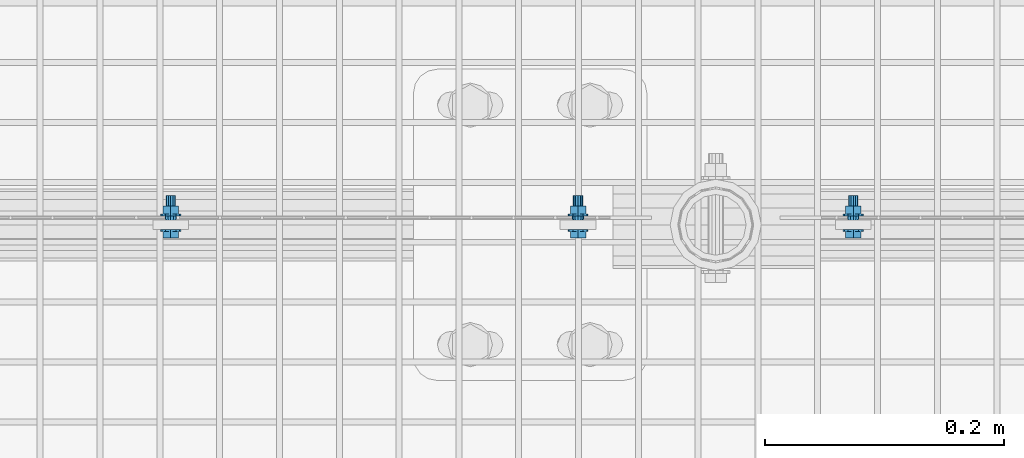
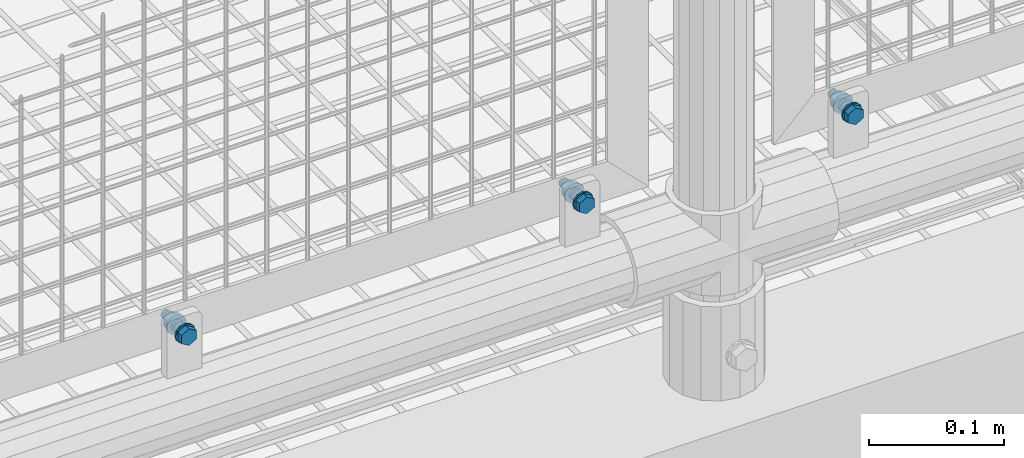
# One storey, part 95 of 1530: 3 mechanical fasteners.
"""IFC2X3 building model written with IfcOpenShell, lengths in millimetres."""

from ifc_helpers import new_model, si_unit, frame, origin_with_axes, place, context, subcontext, project, spatial, faceted_brep, source, transform, mapped, material, type_object, element, save


model = new_model("IFC2X3")

# Units and contexts
model_context = context("Model", 3, precision=1e-05, world=origin_with_axes())
body_context = subcontext(model_context, "Body", "Model", "MODEL_VIEW")
ifc_project = project(units=[si_unit("LENGTHUNIT", "METRE", prefix="MILLI"), si_unit("AREAUNIT", "SQUARE_METRE"), si_unit("VOLUMEUNIT", "CUBIC_METRE"), si_unit("MASSUNIT", "GRAM", prefix="KILO"), si_unit("TIMEUNIT", "SECOND"), si_unit("PLANEANGLEUNIT", "RADIAN"), si_unit("SOLIDANGLEUNIT", "STERADIAN"), si_unit("THERMODYNAMICTEMPERATUREUNIT", "DEGREE_CELSIUS"), si_unit("LUMINOUSINTENSITYUNIT", "LUMEN")], contexts=[model_context])

# Site, building, storey
site_placement = place(None, origin_with_axes())
site = spatial("IfcSite", under=ifc_project, at=site_placement, Name="Brattvåg", CompositionType="ELEMENT")
building_placement = place(site_placement, origin_with_axes())
building = spatial("IfcBuilding", under=site, at=building_placement, Name="Undefined", CompositionType="ELEMENT")
storey_placement = place(building_placement, origin_with_axes())
storey = spatial("IfcBuildingStorey", under=building, at=storey_placement, Name="Undefined", CompositionType="ELEMENT", Elevation=0.0)

# Mechanical fasteners
ifc_material = material(Name="8")
mechanical_fastener_type = type_object("IfcMechanicalFastenerType", Name="Bolt assembly")
shared_shape_1 = source(origin_with_axes(), body_context, "Body", "Brep", [
    faceted_brep([(7.50555349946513, -6.899000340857, 0.0), (3.75277674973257, -6.899000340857, 6.5), (-3.75277674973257, -6.899000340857, 6.5), (-7.50555349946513, -6.899000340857, 9.19165206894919e-16), (-3.75277674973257, -6.899000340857, -6.5), (3.75277674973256, -6.899000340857, -6.5), (3.75277674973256, -1.59900015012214, -6.5), (-3.75277674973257, -1.59900015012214, -6.5), (-7.50555349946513, -1.59900015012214, 9.19165206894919e-16), (-3.75277674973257, -1.59900015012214, 6.5), (3.75277674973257, -1.59900015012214, 6.5), (7.50555349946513, -1.59900015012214, 0.0), (4.0, -1.59900015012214, 0.0), (3.46410161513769, -1.59900015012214, 2.00000000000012), (1.99999999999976, -1.59900015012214, 3.46410161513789), (-4.14534392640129e-13, -1.59900015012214, 4.0), (-2.00000000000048, -1.59900015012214, 3.46410161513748), (-3.4641016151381, -1.59900015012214, 1.9999999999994), (-4.0, -1.59900015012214, -8.29068785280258e-13), (-3.46410161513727, -1.59900015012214, -2.00000000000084), (-1.99999999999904, -1.59900015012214, -3.46410161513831), (1.23916228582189e-12, -1.59900015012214, -4.0), (2.00000000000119, -1.59900015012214, -3.46410161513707), (3.46410161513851, -1.59900015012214, -1.99999999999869), (3.46410161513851, 28.4009998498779, -1.99999999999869), (2.00000000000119, 28.4009998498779, -3.46410161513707), (1.23916228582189e-12, 28.4009998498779, -4.0), (-1.99999999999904, 28.4009998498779, -3.46410161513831), (-3.46410161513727, 28.4009998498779, -2.00000000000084), (-4.0, 28.4009998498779, -8.29068785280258e-13), (-3.4641016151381, 28.4009998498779, 1.9999999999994), (-2.00000000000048, 28.4009998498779, 3.46410161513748), (-4.14534392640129e-13, 28.4009998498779, 4.0), (1.99999999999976, 28.4009998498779, 3.46410161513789), (3.46410161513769, 28.4009998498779, 2.00000000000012), (4.0, 28.4009998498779, 0.0), (8.5, -1.59900015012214, 0.0), (7.36121593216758, -1.59900015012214, 4.25000000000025), (4.24999999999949, -1.59900015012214, 7.36121593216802), (-8.80885584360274e-13, -1.59900015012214, 8.5), (-4.25000000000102, -1.59900015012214, 7.36121593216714), (-7.36121593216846, -1.59900015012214, 4.24999999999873), (-8.5, -1.59900015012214, -1.76177116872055e-12), (-7.3612159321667, -1.59900015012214, -4.25000000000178), (-4.24999999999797, -1.59900015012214, -7.3612159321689), (2.63321985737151e-12, -1.59900015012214, -8.5), (4.25000000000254, -1.59900015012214, -7.36121593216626), (7.36121593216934, -1.59900015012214, -4.24999999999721), (7.36121593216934, 0.000999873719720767, -4.24999999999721), (4.25000000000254, 0.000999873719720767, -7.36121593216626), (2.63321985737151e-12, 0.000999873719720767, -8.5), (-4.24999999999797, 0.000999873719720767, -7.3612159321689), (-7.3612159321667, 0.000999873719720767, -4.25000000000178), (-8.5, 0.000999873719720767, -1.76177116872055e-12), (-7.36121593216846, 0.000999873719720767, 4.24999999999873), (-4.25000000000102, 0.000999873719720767, 7.36121593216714), (-8.80885584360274e-13, 0.000999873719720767, 8.5), (4.24999999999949, 0.000999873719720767, 7.36121593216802), (7.36121593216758, 0.000999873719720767, 4.25000000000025), (8.5, 0.000999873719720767, 0.0), (8.5, 11.5044159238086, 0.0), (7.36121593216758, 11.5044159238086, 4.25000000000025), (4.24999999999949, 11.5044159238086, 7.36121593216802), (-8.80885584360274e-13, 11.5044159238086, 8.5), (-4.25000000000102, 11.5044159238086, 7.36121593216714), (-7.36121593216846, 11.5044159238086, 4.24999999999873), (-8.5, 11.5044159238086, -1.76177116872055e-12), (-7.3612159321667, 11.5044159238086, -4.25000000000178), (-4.24999999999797, 11.5044159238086, -7.3612159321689), (2.63321985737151e-12, 11.5044159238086, -8.5), (4.25000000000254, 11.5044159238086, -7.36121593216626), (7.36121593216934, 11.5044159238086, -4.24999999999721), (7.36121593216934, 13.1044159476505, -4.24999999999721), (4.25000000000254, 13.1044159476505, -7.36121593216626), (2.63321985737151e-12, 13.1044159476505, -8.5), (-4.24999999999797, 13.1044159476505, -7.3612159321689), (-7.3612159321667, 13.1044159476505, -4.25000000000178), (-8.5, 13.1044159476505, -1.76177116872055e-12), (-7.36121593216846, 13.1044159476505, 4.24999999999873), (-4.25000000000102, 13.1044159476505, 7.36121593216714), (-8.80885584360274e-13, 13.1044159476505, 8.5), (4.24999999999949, 13.1044159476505, 7.36121593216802), (7.36121593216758, 13.1044159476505, 4.25000000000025), (8.5, 13.1044159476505, 0.0), (7.50555349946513, 13.1044159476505, 0.0), (3.75277674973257, 13.1044159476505, 6.5), (-3.75277674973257, 13.1044159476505, 6.5), (-7.50555349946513, 13.1044159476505, 9.19165206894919e-16), (-3.75277674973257, 13.1044159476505, -6.5), (3.75277674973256, 13.1044159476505, -6.5), (3.75277674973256, 19.9044161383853, -6.5), (-3.75277674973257, 19.9044161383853, -6.5), (-7.50555349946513, 19.9044161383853, 9.19165206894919e-16), (-3.75277674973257, 19.9044161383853, 6.5), (3.75277674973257, 19.9044161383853, 6.5), (7.50555349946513, 19.9044161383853, 0.0)], [[[0, 1, 2, 3, 4, 5]], [[6, 7, 8, 9, 10, 11]], [[0, 11, 10, 1]], [[1, 10, 9, 2]], [[2, 9, 8, 3]], [[3, 8, 7, 4]], [[4, 7, 6, 5]], [[5, 6, 11, 0]], [[12, 13, 14, 15, 16, 17, 18, 19, 20, 21, 22, 23]], [[24, 25, 26, 27, 28, 29, 30, 31, 32, 33, 34, 35]], [[12, 35, 34, 13]], [[13, 34, 33, 14]], [[14, 33, 32, 15]], [[15, 32, 31, 16]], [[16, 31, 30, 17]], [[17, 30, 29, 18]], [[18, 29, 28, 19]], [[19, 28, 27, 20]], [[20, 27, 26, 21]], [[21, 26, 25, 22]], [[22, 25, 24, 23]], [[23, 24, 35, 12]], [[36, 37, 38, 39, 40, 41, 42, 43, 44, 45, 46, 47]], [[48, 49, 50, 51, 52, 53, 54, 55, 56, 57, 58, 59]], [[36, 59, 58, 37]], [[37, 58, 57, 38]], [[38, 57, 56, 39]], [[39, 56, 55, 40]], [[40, 55, 54, 41]], [[41, 54, 53, 42]], [[42, 53, 52, 43]], [[43, 52, 51, 44]], [[44, 51, 50, 45]], [[45, 50, 49, 46]], [[46, 49, 48, 47]], [[47, 48, 59, 36]], [[60, 61, 62, 63, 64, 65, 66, 67, 68, 69, 70, 71]], [[72, 73, 74, 75, 76, 77, 78, 79, 80, 81, 82, 83]], [[60, 83, 82, 61]], [[61, 82, 81, 62]], [[62, 81, 80, 63]], [[63, 80, 79, 64]], [[64, 79, 78, 65]], [[65, 78, 77, 66]], [[66, 77, 76, 67]], [[67, 76, 75, 68]], [[68, 75, 74, 69]], [[69, 74, 73, 70]], [[70, 73, 72, 71]], [[71, 72, 83, 60]], [[84, 85, 86, 87, 88, 89]], [[90, 91, 92, 93, 94, 95]], [[84, 95, 94, 85]], [[85, 94, 93, 86]], [[86, 93, 92, 87]], [[87, 92, 91, 88]], [[88, 91, 90, 89]], [[89, 90, 95, 84]]]),
    faceted_brep([(5.0, 0.100999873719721, 0.0), (4.33012701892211, 0.100999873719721, 2.50000000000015), (2.4999999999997, 0.100999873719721, 4.33012701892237), (-5.18167990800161e-13, 0.100999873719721, 5.0), (-2.5000000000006, 0.100999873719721, 4.33012701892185), (-4.33012701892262, 0.100999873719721, 2.49999999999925), (-5.0, 0.100999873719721, -1.03633598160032e-12), (-4.33012701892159, 0.100999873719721, -2.50000000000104), (-2.49999999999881, 0.100999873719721, -4.33012701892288), (1.54895285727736e-12, 0.100999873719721, -5.0), (2.50000000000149, 0.100999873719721, -4.33012701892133), (4.33012701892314, 0.100999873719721, -2.49999999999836), (4.33012701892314, 8.10099988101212, -2.49999999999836), (2.50000000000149, 8.10099988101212, -4.33012701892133), (1.54895285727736e-12, 8.10099988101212, -5.0), (-2.49999999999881, 8.10099988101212, -4.33012701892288), (-4.33012701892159, 8.10099988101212, -2.50000000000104), (-5.0, 8.10099988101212, -1.03633598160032e-12), (-4.33012701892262, 8.10099988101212, 2.49999999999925), (-2.5000000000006, 8.10099988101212, 4.33012701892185), (-5.18167990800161e-13, 8.10099988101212, 5.0), (2.4999999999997, 8.10099988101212, 4.33012701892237), (4.33012701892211, 8.10099988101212, 2.50000000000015), (5.0, 8.10099988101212, 0.0), (5.0, 8.40441592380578, 0.0), (4.33012701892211, 8.40441592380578, 2.50000000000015), (2.4999999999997, 8.40441592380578, 4.33012701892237), (-5.18167990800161e-13, 8.40441592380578, 5.0), (-2.5000000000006, 8.40441592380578, 4.33012701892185), (-4.33012701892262, 8.40441592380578, 2.49999999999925), (-5.0, 8.40441592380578, -1.03633598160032e-12), (-4.33012701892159, 8.40441592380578, -2.50000000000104), (-2.49999999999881, 8.40441592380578, -4.33012701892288), (1.54895285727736e-12, 8.40441592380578, -5.0), (2.50000000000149, 8.40441592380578, -4.33012701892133), (4.33012701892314, 8.40441592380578, -2.49999999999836), (4.33012701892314, 11.5044159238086, -2.49999999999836), (2.50000000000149, 11.5044159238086, -4.33012701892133), (1.54895285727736e-12, 11.5044159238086, -5.0), (-2.49999999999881, 11.5044159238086, -4.33012701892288), (-4.33012701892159, 11.5044159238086, -2.50000000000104), (-5.0, 11.5044159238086, -1.03633598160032e-12), (-4.33012701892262, 11.5044159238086, 2.49999999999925), (-2.5000000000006, 11.5044159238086, 4.33012701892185), (-5.18167990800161e-13, 11.5044159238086, 5.0), (2.4999999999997, 11.5044159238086, 4.33012701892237), (4.33012701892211, 11.5044159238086, 2.50000000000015), (5.0, 11.5044159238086, 0.0)], [[[0, 1, 2, 3, 4, 5, 6, 7, 8, 9, 10, 11]], [[12, 13, 14, 15, 16, 17, 18, 19, 20, 21, 22, 23]], [[0, 23, 22, 1]], [[1, 22, 21, 2]], [[2, 21, 20, 3]], [[3, 20, 19, 4]], [[4, 19, 18, 5]], [[5, 18, 17, 6]], [[6, 17, 16, 7]], [[7, 16, 15, 8]], [[8, 15, 14, 9]], [[9, 14, 13, 10]], [[10, 13, 12, 11]], [[11, 12, 23, 0]], [[24, 25, 26, 27, 28, 29, 30, 31, 32, 33, 34, 35]], [[36, 37, 38, 39, 40, 41, 42, 43, 44, 45, 46, 47]], [[24, 47, 46, 25]], [[25, 46, 45, 26]], [[26, 45, 44, 27]], [[27, 44, 43, 28]], [[28, 43, 42, 29]], [[29, 42, 41, 30]], [[30, 41, 40, 31]], [[31, 40, 39, 32]], [[32, 39, 38, 33]], [[33, 38, 37, 34]], [[34, 37, 36, 35]], [[35, 36, 47, 24]]]),
])
mechanical_fastener_1_placement = place(storey_placement, frame((11935.8506088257, 7660.49843978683, 352.299672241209), z_axis=(-1.0, 1.99999855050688e-09, 0.0), x_axis=(0.0, 0.0, 1.0)))
element("IfcMechanicalFastener", 1, at=mechanical_fastener_1_placement, inside=storey, type_object=mechanical_fastener_type, material=ifc_material, Name="Bolt assembly", NominalDiameter=8.0, NominalLength=30.0, context=body_context, shape_type="MappedRepresentation", body=[
    mapped(shared_shape_1, transform((0.0, 0.0, 0.0))),
])
shared_shape_2 = source(origin_with_axes(), body_context, "Body", "Brep", [
    faceted_brep([(7.50555349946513, -6.899000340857, 0.0), (3.75277674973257, -6.899000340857, 6.5), (-3.75277674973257, -6.899000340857, 6.5), (-7.50555349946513, -6.899000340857, 9.19165206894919e-16), (-3.75277674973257, -6.899000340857, -6.5), (3.75277674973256, -6.899000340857, -6.5), (3.75277674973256, -1.59900015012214, -6.5), (-3.75277674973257, -1.59900015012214, -6.5), (-7.50555349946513, -1.59900015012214, 9.19165206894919e-16), (-3.75277674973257, -1.59900015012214, 6.5), (3.75277674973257, -1.59900015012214, 6.5), (7.50555349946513, -1.59900015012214, 0.0), (4.0, -1.59900015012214, 0.0), (3.46410161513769, -1.59900015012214, 2.00000000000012), (1.99999999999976, -1.59900015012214, 3.46410161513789), (-4.14534392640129e-13, -1.59900015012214, 4.0), (-2.00000000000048, -1.59900015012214, 3.46410161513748), (-3.4641016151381, -1.59900015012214, 1.9999999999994), (-4.0, -1.59900015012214, -8.29068785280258e-13), (-3.46410161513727, -1.59900015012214, -2.00000000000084), (-1.99999999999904, -1.59900015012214, -3.46410161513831), (1.23916228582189e-12, -1.59900015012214, -4.0), (2.00000000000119, -1.59900015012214, -3.46410161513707), (3.46410161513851, -1.59900015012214, -1.99999999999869), (3.46410161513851, 28.4009998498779, -1.99999999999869), (2.00000000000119, 28.4009998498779, -3.46410161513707), (1.23916228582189e-12, 28.4009998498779, -4.0), (-1.99999999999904, 28.4009998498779, -3.46410161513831), (-3.46410161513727, 28.4009998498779, -2.00000000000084), (-4.0, 28.4009998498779, -8.29068785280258e-13), (-3.4641016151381, 28.4009998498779, 1.9999999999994), (-2.00000000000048, 28.4009998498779, 3.46410161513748), (-4.14534392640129e-13, 28.4009998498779, 4.0), (1.99999999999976, 28.4009998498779, 3.46410161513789), (3.46410161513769, 28.4009998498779, 2.00000000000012), (4.0, 28.4009998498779, 0.0), (8.5, -1.59900015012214, 0.0), (7.36121593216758, -1.59900015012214, 4.25000000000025), (4.24999999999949, -1.59900015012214, 7.36121593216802), (-8.80885584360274e-13, -1.59900015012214, 8.5), (-4.25000000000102, -1.59900015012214, 7.36121593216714), (-7.36121593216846, -1.59900015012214, 4.24999999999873), (-8.5, -1.59900015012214, -1.76177116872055e-12), (-7.3612159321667, -1.59900015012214, -4.25000000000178), (-4.24999999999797, -1.59900015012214, -7.3612159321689), (2.63321985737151e-12, -1.59900015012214, -8.5), (4.25000000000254, -1.59900015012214, -7.36121593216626), (7.36121593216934, -1.59900015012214, -4.24999999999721), (7.36121593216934, 0.000999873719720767, -4.24999999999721), (4.25000000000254, 0.000999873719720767, -7.36121593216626), (2.63321985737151e-12, 0.000999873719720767, -8.5), (-4.24999999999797, 0.000999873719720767, -7.3612159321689), (-7.3612159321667, 0.000999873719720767, -4.25000000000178), (-8.5, 0.000999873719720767, -1.76177116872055e-12), (-7.36121593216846, 0.000999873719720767, 4.24999999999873), (-4.25000000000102, 0.000999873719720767, 7.36121593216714), (-8.80885584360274e-13, 0.000999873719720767, 8.5), (4.24999999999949, 0.000999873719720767, 7.36121593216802), (7.36121593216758, 0.000999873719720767, 4.25000000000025), (8.5, 0.000999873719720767, 0.0), (8.5, 11.5030995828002, 0.0), (7.36121593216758, 11.5030995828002, 4.25000000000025), (4.24999999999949, 11.5030995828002, 7.36121593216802), (-8.80885584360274e-13, 11.5030995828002, 8.5), (-4.25000000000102, 11.5030995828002, 7.36121593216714), (-7.36121593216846, 11.5030995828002, 4.24999999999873), (-8.5, 11.5030995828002, -1.76177116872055e-12), (-7.3612159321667, 11.5030995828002, -4.25000000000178), (-4.24999999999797, 11.5030995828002, -7.3612159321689), (2.63321985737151e-12, 11.5030995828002, -8.5), (4.25000000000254, 11.5030995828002, -7.36121593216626), (7.36121593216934, 11.5030995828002, -4.24999999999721), (7.36121593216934, 13.1030996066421, -4.24999999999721), (4.25000000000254, 13.1030996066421, -7.36121593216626), (2.63321985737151e-12, 13.1030996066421, -8.5), (-4.24999999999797, 13.1030996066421, -7.3612159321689), (-7.3612159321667, 13.1030996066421, -4.25000000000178), (-8.5, 13.1030996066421, -1.76177116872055e-12), (-7.36121593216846, 13.1030996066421, 4.24999999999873), (-4.25000000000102, 13.1030996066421, 7.36121593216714), (-8.80885584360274e-13, 13.1030996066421, 8.5), (4.24999999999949, 13.1030996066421, 7.36121593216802), (7.36121593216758, 13.1030996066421, 4.25000000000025), (8.5, 13.1030996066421, 0.0), (7.50555349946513, 13.1030996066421, 0.0), (3.75277674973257, 13.1030996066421, 6.5), (-3.75277674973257, 13.1030996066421, 6.5), (-7.50555349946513, 13.1030996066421, 9.19165206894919e-16), (-3.75277674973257, 13.1030996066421, -6.5), (3.75277674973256, 13.1030996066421, -6.5), (3.75277674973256, 19.9030997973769, -6.5), (-3.75277674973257, 19.9030997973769, -6.5), (-7.50555349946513, 19.9030997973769, 9.19165206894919e-16), (-3.75277674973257, 19.9030997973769, 6.5), (3.75277674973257, 19.9030997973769, 6.5), (7.50555349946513, 19.9030997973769, 0.0)], [[[0, 1, 2, 3, 4, 5]], [[6, 7, 8, 9, 10, 11]], [[0, 11, 10, 1]], [[1, 10, 9, 2]], [[2, 9, 8, 3]], [[3, 8, 7, 4]], [[4, 7, 6, 5]], [[5, 6, 11, 0]], [[12, 13, 14, 15, 16, 17, 18, 19, 20, 21, 22, 23]], [[24, 25, 26, 27, 28, 29, 30, 31, 32, 33, 34, 35]], [[12, 35, 34, 13]], [[13, 34, 33, 14]], [[14, 33, 32, 15]], [[15, 32, 31, 16]], [[16, 31, 30, 17]], [[17, 30, 29, 18]], [[18, 29, 28, 19]], [[19, 28, 27, 20]], [[20, 27, 26, 21]], [[21, 26, 25, 22]], [[22, 25, 24, 23]], [[23, 24, 35, 12]], [[36, 37, 38, 39, 40, 41, 42, 43, 44, 45, 46, 47]], [[48, 49, 50, 51, 52, 53, 54, 55, 56, 57, 58, 59]], [[36, 59, 58, 37]], [[37, 58, 57, 38]], [[38, 57, 56, 39]], [[39, 56, 55, 40]], [[40, 55, 54, 41]], [[41, 54, 53, 42]], [[42, 53, 52, 43]], [[43, 52, 51, 44]], [[44, 51, 50, 45]], [[45, 50, 49, 46]], [[46, 49, 48, 47]], [[47, 48, 59, 36]], [[60, 61, 62, 63, 64, 65, 66, 67, 68, 69, 70, 71]], [[72, 73, 74, 75, 76, 77, 78, 79, 80, 81, 82, 83]], [[60, 83, 82, 61]], [[61, 82, 81, 62]], [[62, 81, 80, 63]], [[63, 80, 79, 64]], [[64, 79, 78, 65]], [[65, 78, 77, 66]], [[66, 77, 76, 67]], [[67, 76, 75, 68]], [[68, 75, 74, 69]], [[69, 74, 73, 70]], [[70, 73, 72, 71]], [[71, 72, 83, 60]], [[84, 85, 86, 87, 88, 89]], [[90, 91, 92, 93, 94, 95]], [[84, 95, 94, 85]], [[85, 94, 93, 86]], [[86, 93, 92, 87]], [[87, 92, 91, 88]], [[88, 91, 90, 89]], [[89, 90, 95, 84]]]),
    faceted_brep([(5.0, 0.100999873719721, 0.0), (4.33012701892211, 0.100999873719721, 2.50000000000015), (2.4999999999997, 0.100999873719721, 4.33012701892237), (-5.18167990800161e-13, 0.100999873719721, 5.0), (-2.5000000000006, 0.100999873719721, 4.33012701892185), (-4.33012701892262, 0.100999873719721, 2.49999999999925), (-5.0, 0.100999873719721, -1.03633598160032e-12), (-4.33012701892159, 0.100999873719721, -2.50000000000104), (-2.49999999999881, 0.100999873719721, -4.33012701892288), (1.54895285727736e-12, 0.100999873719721, -5.0), (2.50000000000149, 0.100999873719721, -4.33012701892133), (4.33012701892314, 0.100999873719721, -2.49999999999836), (4.33012701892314, 8.10099988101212, -2.49999999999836), (2.50000000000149, 8.10099988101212, -4.33012701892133), (1.54895285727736e-12, 8.10099988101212, -5.0), (-2.49999999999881, 8.10099988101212, -4.33012701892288), (-4.33012701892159, 8.10099988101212, -2.50000000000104), (-5.0, 8.10099988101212, -1.03633598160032e-12), (-4.33012701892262, 8.10099988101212, 2.49999999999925), (-2.5000000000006, 8.10099988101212, 4.33012701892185), (-5.18167990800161e-13, 8.10099988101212, 5.0), (2.4999999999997, 8.10099988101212, 4.33012701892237), (4.33012701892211, 8.10099988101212, 2.50000000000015), (5.0, 8.10099988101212, 0.0), (5.0, 8.40309958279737, 0.0), (4.33012701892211, 8.40309958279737, 2.50000000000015), (2.4999999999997, 8.40309958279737, 4.33012701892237), (-5.18167990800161e-13, 8.40309958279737, 5.0), (-2.5000000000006, 8.40309958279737, 4.33012701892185), (-4.33012701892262, 8.40309958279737, 2.49999999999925), (-5.0, 8.40309958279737, -1.03633598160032e-12), (-4.33012701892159, 8.40309958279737, -2.50000000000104), (-2.49999999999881, 8.40309958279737, -4.33012701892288), (1.54895285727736e-12, 8.40309958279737, -5.0), (2.50000000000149, 8.40309958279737, -4.33012701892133), (4.33012701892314, 8.40309958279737, -2.49999999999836), (4.33012701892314, 11.5030995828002, -2.49999999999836), (2.50000000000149, 11.5030995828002, -4.33012701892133), (1.54895285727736e-12, 11.5030995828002, -5.0), (-2.49999999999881, 11.5030995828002, -4.33012701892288), (-4.33012701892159, 11.5030995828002, -2.50000000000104), (-5.0, 11.5030995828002, -1.03633598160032e-12), (-4.33012701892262, 11.5030995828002, 2.49999999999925), (-2.5000000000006, 11.5030995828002, 4.33012701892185), (-5.18167990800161e-13, 11.5030995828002, 5.0), (2.4999999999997, 11.5030995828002, 4.33012701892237), (4.33012701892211, 11.5030995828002, 2.50000000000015), (5.0, 11.5030995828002, 0.0)], [[[0, 1, 2, 3, 4, 5, 6, 7, 8, 9, 10, 11]], [[12, 13, 14, 15, 16, 17, 18, 19, 20, 21, 22, 23]], [[0, 23, 22, 1]], [[1, 22, 21, 2]], [[2, 21, 20, 3]], [[3, 20, 19, 4]], [[4, 19, 18, 5]], [[5, 18, 17, 6]], [[6, 17, 16, 7]], [[7, 16, 15, 8]], [[8, 15, 14, 9]], [[9, 14, 13, 10]], [[10, 13, 12, 11]], [[11, 12, 23, 0]], [[24, 25, 26, 27, 28, 29, 30, 31, 32, 33, 34, 35]], [[36, 37, 38, 39, 40, 41, 42, 43, 44, 45, 46, 47]], [[24, 47, 46, 25]], [[25, 46, 45, 26]], [[26, 45, 44, 27]], [[27, 44, 43, 28]], [[28, 43, 42, 29]], [[29, 42, 41, 30]], [[30, 41, 40, 31]], [[31, 40, 39, 32]], [[32, 39, 38, 33]], [[33, 38, 37, 34]], [[34, 37, 36, 35]], [[35, 36, 47, 24]]]),
])
mechanical_fastener_2_placement = place(storey_placement, frame((11365.8512954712, 7660.49843978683, 352.299672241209), z_axis=(-1.0, 1.99999855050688e-09, 0.0), x_axis=(0.0, 0.0, 1.0)))
element("IfcMechanicalFastener", 2, at=mechanical_fastener_2_placement, inside=storey, type_object=mechanical_fastener_type, material=ifc_material, Name="Bolt assembly", NominalDiameter=8.0, NominalLength=30.0, context=body_context, shape_type="MappedRepresentation", body=[
    mapped(shared_shape_2, transform((0.0, 0.0, 0.0))),
])
shared_shape_3 = source(origin_with_axes(), body_context, "Body", "Brep", [
    faceted_brep([(7.50555349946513, -6.899000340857, 0.0), (3.75277674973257, -6.899000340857, 6.5), (-3.75277674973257, -6.899000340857, 6.5), (-7.50555349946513, -6.899000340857, 9.19165206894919e-16), (-3.75277674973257, -6.899000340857, -6.5), (3.75277674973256, -6.899000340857, -6.5), (3.75277674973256, -1.59900015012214, -6.5), (-3.75277674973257, -1.59900015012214, -6.5), (-7.50555349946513, -1.59900015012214, 9.19165206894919e-16), (-3.75277674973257, -1.59900015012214, 6.5), (3.75277674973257, -1.59900015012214, 6.5), (7.50555349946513, -1.59900015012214, 0.0), (4.0, -1.59900015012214, 0.0), (3.46410161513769, -1.59900015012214, 2.00000000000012), (1.99999999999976, -1.59900015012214, 3.46410161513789), (-4.14534392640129e-13, -1.59900015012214, 4.0), (-2.00000000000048, -1.59900015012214, 3.46410161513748), (-3.4641016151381, -1.59900015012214, 1.9999999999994), (-4.0, -1.59900015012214, -8.29068785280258e-13), (-3.46410161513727, -1.59900015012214, -2.00000000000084), (-1.99999999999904, -1.59900015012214, -3.46410161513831), (1.23916228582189e-12, -1.59900015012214, -4.0), (2.00000000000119, -1.59900015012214, -3.46410161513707), (3.46410161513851, -1.59900015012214, -1.99999999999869), (3.46410161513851, 28.4009998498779, -1.99999999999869), (2.00000000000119, 28.4009998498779, -3.46410161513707), (1.23916228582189e-12, 28.4009998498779, -4.0), (-1.99999999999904, 28.4009998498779, -3.46410161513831), (-3.46410161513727, 28.4009998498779, -2.00000000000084), (-4.0, 28.4009998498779, -8.29068785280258e-13), (-3.4641016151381, 28.4009998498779, 1.9999999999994), (-2.00000000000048, 28.4009998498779, 3.46410161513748), (-4.14534392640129e-13, 28.4009998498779, 4.0), (1.99999999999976, 28.4009998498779, 3.46410161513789), (3.46410161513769, 28.4009998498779, 2.00000000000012), (4.0, 28.4009998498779, 0.0), (8.5, -1.59900015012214, 0.0), (7.36121593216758, -1.59900015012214, 4.25000000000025), (4.24999999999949, -1.59900015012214, 7.36121593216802), (-8.80885584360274e-13, -1.59900015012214, 8.5), (-4.25000000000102, -1.59900015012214, 7.36121593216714), (-7.36121593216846, -1.59900015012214, 4.24999999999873), (-8.5, -1.59900015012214, -1.76177116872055e-12), (-7.3612159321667, -1.59900015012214, -4.25000000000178), (-4.24999999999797, -1.59900015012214, -7.3612159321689), (2.63321985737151e-12, -1.59900015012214, -8.5), (4.25000000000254, -1.59900015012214, -7.36121593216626), (7.36121593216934, -1.59900015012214, -4.24999999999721), (7.36121593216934, 0.000999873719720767, -4.24999999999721), (4.25000000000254, 0.000999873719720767, -7.36121593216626), (2.63321985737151e-12, 0.000999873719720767, -8.5), (-4.24999999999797, 0.000999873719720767, -7.3612159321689), (-7.3612159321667, 0.000999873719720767, -4.25000000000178), (-8.5, 0.000999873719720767, -1.76177116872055e-12), (-7.36121593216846, 0.000999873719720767, 4.24999999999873), (-4.25000000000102, 0.000999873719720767, 7.36121593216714), (-8.80885584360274e-13, 0.000999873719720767, 8.5), (4.24999999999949, 0.000999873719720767, 7.36121593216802), (7.36121593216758, 0.000999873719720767, 4.25000000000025), (8.5, 0.000999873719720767, 0.0), (8.5, 11.5022147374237, 0.0), (7.36121593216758, 11.5022147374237, 4.25000000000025), (4.24999999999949, 11.5022147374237, 7.36121593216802), (-8.80885584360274e-13, 11.5022147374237, 8.5), (-4.25000000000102, 11.5022147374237, 7.36121593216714), (-7.36121593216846, 11.5022147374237, 4.24999999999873), (-8.5, 11.5022147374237, -1.76177116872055e-12), (-7.3612159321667, 11.5022147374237, -4.25000000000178), (-4.24999999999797, 11.5022147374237, -7.3612159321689), (2.63321985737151e-12, 11.5022147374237, -8.5), (4.25000000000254, 11.5022147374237, -7.36121593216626), (7.36121593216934, 11.5022147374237, -4.24999999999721), (7.36121593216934, 13.1022147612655, -4.24999999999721), (4.25000000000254, 13.1022147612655, -7.36121593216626), (2.63321985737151e-12, 13.1022147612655, -8.5), (-4.24999999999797, 13.1022147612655, -7.3612159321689), (-7.3612159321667, 13.1022147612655, -4.25000000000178), (-8.5, 13.1022147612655, -1.76177116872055e-12), (-7.36121593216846, 13.1022147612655, 4.24999999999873), (-4.25000000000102, 13.1022147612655, 7.36121593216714), (-8.80885584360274e-13, 13.1022147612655, 8.5), (4.24999999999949, 13.1022147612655, 7.36121593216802), (7.36121593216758, 13.1022147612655, 4.25000000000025), (8.5, 13.1022147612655, 0.0), (7.50555349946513, 13.1022147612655, 0.0), (3.75277674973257, 13.1022147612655, 6.5), (-3.75277674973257, 13.1022147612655, 6.5), (-7.50555349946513, 13.1022147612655, 9.19165206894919e-16), (-3.75277674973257, 13.1022147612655, -6.5), (3.75277674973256, 13.1022147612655, -6.5), (3.75277674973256, 19.9022149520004, -6.5), (-3.75277674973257, 19.9022149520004, -6.5), (-7.50555349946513, 19.9022149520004, 9.19165206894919e-16), (-3.75277674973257, 19.9022149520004, 6.5), (3.75277674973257, 19.9022149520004, 6.5), (7.50555349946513, 19.9022149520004, 0.0)], [[[0, 1, 2, 3, 4, 5]], [[6, 7, 8, 9, 10, 11]], [[0, 11, 10, 1]], [[1, 10, 9, 2]], [[2, 9, 8, 3]], [[3, 8, 7, 4]], [[4, 7, 6, 5]], [[5, 6, 11, 0]], [[12, 13, 14, 15, 16, 17, 18, 19, 20, 21, 22, 23]], [[24, 25, 26, 27, 28, 29, 30, 31, 32, 33, 34, 35]], [[12, 35, 34, 13]], [[13, 34, 33, 14]], [[14, 33, 32, 15]], [[15, 32, 31, 16]], [[16, 31, 30, 17]], [[17, 30, 29, 18]], [[18, 29, 28, 19]], [[19, 28, 27, 20]], [[20, 27, 26, 21]], [[21, 26, 25, 22]], [[22, 25, 24, 23]], [[23, 24, 35, 12]], [[36, 37, 38, 39, 40, 41, 42, 43, 44, 45, 46, 47]], [[48, 49, 50, 51, 52, 53, 54, 55, 56, 57, 58, 59]], [[36, 59, 58, 37]], [[37, 58, 57, 38]], [[38, 57, 56, 39]], [[39, 56, 55, 40]], [[40, 55, 54, 41]], [[41, 54, 53, 42]], [[42, 53, 52, 43]], [[43, 52, 51, 44]], [[44, 51, 50, 45]], [[45, 50, 49, 46]], [[46, 49, 48, 47]], [[47, 48, 59, 36]], [[60, 61, 62, 63, 64, 65, 66, 67, 68, 69, 70, 71]], [[72, 73, 74, 75, 76, 77, 78, 79, 80, 81, 82, 83]], [[60, 83, 82, 61]], [[61, 82, 81, 62]], [[62, 81, 80, 63]], [[63, 80, 79, 64]], [[64, 79, 78, 65]], [[65, 78, 77, 66]], [[66, 77, 76, 67]], [[67, 76, 75, 68]], [[68, 75, 74, 69]], [[69, 74, 73, 70]], [[70, 73, 72, 71]], [[71, 72, 83, 60]], [[84, 85, 86, 87, 88, 89]], [[90, 91, 92, 93, 94, 95]], [[84, 95, 94, 85]], [[85, 94, 93, 86]], [[86, 93, 92, 87]], [[87, 92, 91, 88]], [[88, 91, 90, 89]], [[89, 90, 95, 84]]]),
    faceted_brep([(5.0, 0.100999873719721, 0.0), (4.33012701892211, 0.100999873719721, 2.50000000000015), (2.4999999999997, 0.100999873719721, 4.33012701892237), (-5.18167990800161e-13, 0.100999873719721, 5.0), (-2.5000000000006, 0.100999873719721, 4.33012701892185), (-4.33012701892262, 0.100999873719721, 2.49999999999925), (-5.0, 0.100999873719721, -1.03633598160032e-12), (-4.33012701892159, 0.100999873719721, -2.50000000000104), (-2.49999999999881, 0.100999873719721, -4.33012701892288), (1.54895285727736e-12, 0.100999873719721, -5.0), (2.50000000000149, 0.100999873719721, -4.33012701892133), (4.33012701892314, 0.100999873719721, -2.49999999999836), (4.33012701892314, 8.10099988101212, -2.49999999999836), (2.50000000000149, 8.10099988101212, -4.33012701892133), (1.54895285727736e-12, 8.10099988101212, -5.0), (-2.49999999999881, 8.10099988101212, -4.33012701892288), (-4.33012701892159, 8.10099988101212, -2.50000000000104), (-5.0, 8.10099988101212, -1.03633598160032e-12), (-4.33012701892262, 8.10099988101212, 2.49999999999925), (-2.5000000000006, 8.10099988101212, 4.33012701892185), (-5.18167990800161e-13, 8.10099988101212, 5.0), (2.4999999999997, 8.10099988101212, 4.33012701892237), (4.33012701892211, 8.10099988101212, 2.50000000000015), (5.0, 8.10099988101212, 0.0), (5.0, 8.40221473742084, 0.0), (4.33012701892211, 8.40221473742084, 2.50000000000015), (2.4999999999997, 8.40221473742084, 4.33012701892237), (-5.18167990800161e-13, 8.40221473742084, 5.0), (-2.5000000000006, 8.40221473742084, 4.33012701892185), (-4.33012701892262, 8.40221473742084, 2.49999999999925), (-5.0, 8.40221473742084, -1.03633598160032e-12), (-4.33012701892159, 8.40221473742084, -2.50000000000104), (-2.49999999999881, 8.40221473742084, -4.33012701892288), (1.54895285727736e-12, 8.40221473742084, -5.0), (2.50000000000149, 8.40221473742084, -4.33012701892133), (4.33012701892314, 8.40221473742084, -2.49999999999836), (4.33012701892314, 11.5022147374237, -2.49999999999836), (2.50000000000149, 11.5022147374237, -4.33012701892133), (1.54895285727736e-12, 11.5022147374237, -5.0), (-2.49999999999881, 11.5022147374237, -4.33012701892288), (-4.33012701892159, 11.5022147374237, -2.50000000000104), (-5.0, 11.5022147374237, -1.03633598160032e-12), (-4.33012701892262, 11.5022147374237, 2.49999999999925), (-2.5000000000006, 11.5022147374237, 4.33012701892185), (-5.18167990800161e-13, 11.5022147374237, 5.0), (2.4999999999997, 11.5022147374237, 4.33012701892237), (4.33012701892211, 11.5022147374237, 2.50000000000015), (5.0, 11.5022147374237, 0.0)], [[[0, 1, 2, 3, 4, 5, 6, 7, 8, 9, 10, 11]], [[12, 13, 14, 15, 16, 17, 18, 19, 20, 21, 22, 23]], [[0, 23, 22, 1]], [[1, 22, 21, 2]], [[2, 21, 20, 3]], [[3, 20, 19, 4]], [[4, 19, 18, 5]], [[5, 18, 17, 6]], [[6, 17, 16, 7]], [[7, 16, 15, 8]], [[8, 15, 14, 9]], [[9, 14, 13, 10]], [[10, 13, 12, 11]], [[11, 12, 23, 0]], [[24, 25, 26, 27, 28, 29, 30, 31, 32, 33, 34, 35]], [[36, 37, 38, 39, 40, 41, 42, 43, 44, 45, 46, 47]], [[24, 47, 46, 25]], [[25, 46, 45, 26]], [[26, 45, 44, 27]], [[27, 44, 43, 28]], [[28, 43, 42, 29]], [[29, 42, 41, 30]], [[30, 41, 40, 31]], [[31, 40, 39, 32]], [[32, 39, 38, 33]], [[33, 38, 37, 34]], [[34, 37, 36, 35]], [[35, 36, 47, 24]]]),
])
mechanical_fastener_3_placement = place(storey_placement, frame((11705.99974823, 7660.49888992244, 352.300205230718), z_axis=(-1.0, 1.99999855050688e-09, 0.0), x_axis=(0.0, 0.0, 1.0)))
element("IfcMechanicalFastener", 3, at=mechanical_fastener_3_placement, inside=storey, type_object=mechanical_fastener_type, material=ifc_material, Name="Bolt assembly", NominalDiameter=8.0, NominalLength=30.0, context=body_context, shape_type="MappedRepresentation", body=[
    mapped(shared_shape_3, transform((0.0, 0.0, 0.0))),
])

save(model, "model.ifc")
